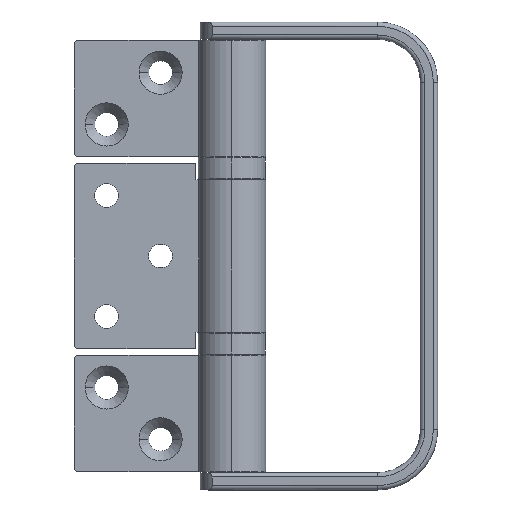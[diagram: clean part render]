
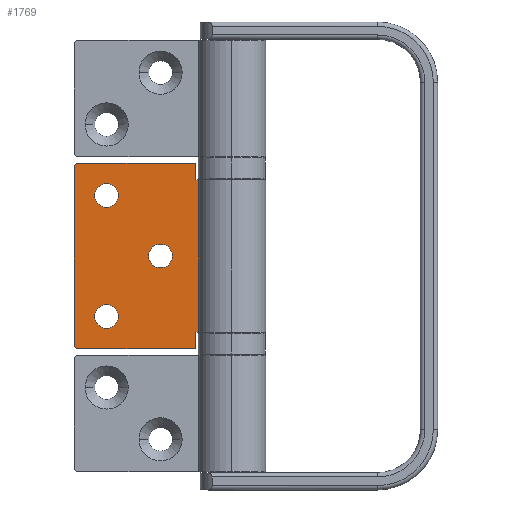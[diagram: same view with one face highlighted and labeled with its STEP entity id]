
A CAD part, top view. The second image highlights one B-rep face of the part: STEP entity #1769.
In plain terms, the highlighted planar face has unit normal (0, 0, 1) as drawn and (-1, 0, 0) by its records, which use the part's own axes.
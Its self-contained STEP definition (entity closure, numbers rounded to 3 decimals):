
#9 = DIRECTION ( 'NONE',  ( 0., 1., 0. ) ) ;
#27 = ORIENTED_EDGE ( 'NONE', *, *, #2105, .T. ) ;
#30 = EDGE_CURVE ( 'NONE', #787, #1439, #2310, .T. ) ;
#45 = CIRCLE ( 'NONE', #2946, 2.75 ) ;
#55 = AXIS2_PLACEMENT_3D ( 'NONE', #2033, #186, #1122 ) ;
#62 = LINE ( 'NONE', #1268, #659 ) ;
#66 = CARTESIAN_POINT ( 'NONE',  ( -1.5, 29., 35.5 ) ) ;
#80 = CARTESIAN_POINT ( 'NONE',  ( -1.5, 35.5, 43. ) ) ;
#92 = LINE ( 'NONE', #3700, #2205 ) ;
#113 = AXIS2_PLACEMENT_3D ( 'NONE', #2845, #1651, #429 ) ;
#171 = DIRECTION ( 'NONE',  ( 0., 1., 0. ) ) ;
#185 = FACE_BOUND ( 'NONE', #983, .T. ) ;
#186 = DIRECTION ( 'NONE',  ( 1., 0., 0. ) ) ;
#246 = ORIENTED_EDGE ( 'NONE', *, *, #3299, .F. ) ;
#253 = CARTESIAN_POINT ( 'NONE',  ( -1.5, 26.25, 35.5 ) ) ;
#264 = EDGE_LOOP ( 'NONE', ( #3300, #1544 ) ) ;
#306 = CARTESIAN_POINT ( 'NONE',  ( -1.5, 35.5, 0. ) ) ;
#388 = CARTESIAN_POINT ( 'NONE',  ( -1.5, 19.25, 21.5 ) ) ;
#405 = DIRECTION ( 'NONE',  ( 1., 0., 0. ) ) ;
#429 = DIRECTION ( 'NONE',  ( 0., 1., 0. ) ) ;
#440 = DIRECTION ( 'NONE',  ( 0., 1., 0. ) ) ;
#509 = FACE_BOUND ( 'NONE', #264, .T. ) ;
#545 = AXIS2_PLACEMENT_3D ( 'NONE', #2735, #2444, #9 ) ;
#629 = LINE ( 'NONE', #1467, #3268 ) ;
#656 = AXIS2_PLACEMENT_3D ( 'NONE', #840, #757, #2046 ) ;
#659 = VECTOR ( 'NONE', #2415, 1000. ) ;
#664 = CARTESIAN_POINT ( 'NONE',  ( -1.5, 7.705, 43. ) ) ;
#722 = ORIENTED_EDGE ( 'NONE', *, *, #1473, .T. ) ;
#735 = AXIS2_PLACEMENT_3D ( 'NONE', #1255, #3634, #3279 ) ;
#757 = DIRECTION ( 'NONE',  ( 1., 0., 0. ) ) ;
#787 = VERTEX_POINT ( 'NONE', #3498 ) ;
#838 = ORIENTED_EDGE ( 'NONE', *, *, #2560, .T. ) ;
#840 = CARTESIAN_POINT ( 'NONE',  ( -1.5, 36.5, 43. ) ) ;
#868 = CIRCLE ( 'NONE', #735, 2.75 ) ;
#907 = EDGE_CURVE ( 'NONE', #3238, #1077, #2257, .T. ) ;
#924 = VERTEX_POINT ( 'NONE', #944 ) ;
#935 = EDGE_LOOP ( 'NONE', ( #722, #838, #2634, #246, #2682, #1584, #1725, #2335, #2083, #2038 ) ) ;
#938 = VECTOR ( 'NONE', #3026, 1000. ) ;
#944 = CARTESIAN_POINT ( 'NONE',  ( -1.5, 7.705, 3.8 ) ) ;
#964 = DIRECTION ( 'NONE',  ( 0., 0., 1. ) ) ;
#983 = EDGE_LOOP ( 'NONE', ( #27, #3679 ) ) ;
#985 = DIRECTION ( 'NONE',  ( 0., -1., 0. ) ) ;
#1006 = VERTEX_POINT ( 'NONE', #1591 ) ;
#1019 = EDGE_CURVE ( 'NONE', #2387, #1428, #3057, .T. ) ;
#1042 = CARTESIAN_POINT ( 'NONE',  ( -1.5, 36.5, 39.2 ) ) ;
#1044 = VERTEX_POINT ( 'NONE', #388 ) ;
#1062 = CIRCLE ( 'NONE', #55, 2.75 ) ;
#1077 = VERTEX_POINT ( 'NONE', #1577 ) ;
#1078 = EDGE_CURVE ( 'NONE', #3620, #3116, #2648, .T. ) ;
#1088 = CARTESIAN_POINT ( 'NONE',  ( -1.5, 35.5, 1. ) ) ;
#1112 = EDGE_CURVE ( 'NONE', #2082, #924, #92, .T. ) ;
#1122 = DIRECTION ( 'NONE',  ( 0., 1., 0. ) ) ;
#1139 = ORIENTED_EDGE ( 'NONE', *, *, #2777, .T. ) ;
#1168 = DIRECTION ( 'NONE',  ( 0., 0., 1. ) ) ;
#1191 = CARTESIAN_POINT ( 'NONE',  ( -1.5, 13.75, 21.5 ) ) ;
#1255 = CARTESIAN_POINT ( 'NONE',  ( -1.5, 29., 7.5 ) ) ;
#1265 = CARTESIAN_POINT ( 'NONE',  ( -1.5, 31.75, 7.5 ) ) ;
#1266 = EDGE_CURVE ( 'NONE', #3809, #1044, #1062, .T. ) ;
#1268 = CARTESIAN_POINT ( 'NONE',  ( -1.5, 36.5, 43. ) ) ;
#1290 = CARTESIAN_POINT ( 'NONE',  ( -1.5, 8.4, 43. ) ) ;
#1364 = DIRECTION ( 'NONE',  ( -1., 0., 0. ) ) ;
#1425 = VECTOR ( 'NONE', #1902, 1000. ) ;
#1428 = VERTEX_POINT ( 'NONE', #2154 ) ;
#1439 = VERTEX_POINT ( 'NONE', #306 ) ;
#1467 = CARTESIAN_POINT ( 'NONE',  ( -1.5, 8.4, 43. ) ) ;
#1473 = EDGE_CURVE ( 'NONE', #1439, #2692, #3578, .T. ) ;
#1541 = CARTESIAN_POINT ( 'NONE',  ( -1.5, 16.5, 21.5 ) ) ;
#1544 = ORIENTED_EDGE ( 'NONE', *, *, #3373, .T. ) ;
#1577 = CARTESIAN_POINT ( 'NONE',  ( -1.5, 31.75, 35.5 ) ) ;
#1584 = ORIENTED_EDGE ( 'NONE', *, *, #1019, .T. ) ;
#1591 = CARTESIAN_POINT ( 'NONE',  ( -1.5, 7.705, 39.2 ) ) ;
#1617 = LINE ( 'NONE', #664, #1425 ) ;
#1626 = DIRECTION ( 'NONE',  ( 0., 1., 0. ) ) ;
#1651 = DIRECTION ( 'NONE',  ( -1., 0., 0. ) ) ;
#1725 = ORIENTED_EDGE ( 'NONE', *, *, #2643, .F. ) ;
#1729 = FACE_OUTER_BOUND ( 'NONE', #935, .T. ) ;
#1769 = ADVANCED_FACE ( 'NONE', ( #185, #509, #2650, #1729 ), #3558, .F. ) ;
#1819 = CARTESIAN_POINT ( 'NONE',  ( -1.5, 36.5, 0. ) ) ;
#1820 = VECTOR ( 'NONE', #171, 1000. ) ;
#1826 = VECTOR ( 'NONE', #964, 1000. ) ;
#1902 = DIRECTION ( 'NONE',  ( 0., 0., -1. ) ) ;
#1920 = CARTESIAN_POINT ( 'NONE',  ( -1.5, 26.25, 7.5 ) ) ;
#1934 = CARTESIAN_POINT ( 'NONE',  ( -1.5, 29., 7.5 ) ) ;
#2033 = CARTESIAN_POINT ( 'NONE',  ( -1.5, 16.5, 21.5 ) ) ;
#2038 = ORIENTED_EDGE ( 'NONE', *, *, #30, .T. ) ;
#2046 = DIRECTION ( 'NONE',  ( 0., 1., 0. ) ) ;
#2056 = CIRCLE ( 'NONE', #2626, 2.75 ) ;
#2082 = VERTEX_POINT ( 'NONE', #2145 ) ;
#2083 = ORIENTED_EDGE ( 'NONE', *, *, #2133, .T. ) ;
#2105 = EDGE_CURVE ( 'NONE', #1044, #3809, #2056, .T. ) ;
#2133 = EDGE_CURVE ( 'NONE', #3116, #787, #62, .T. ) ;
#2145 = CARTESIAN_POINT ( 'NONE',  ( -1.5, 8.4, 3.8 ) ) ;
#2154 = CARTESIAN_POINT ( 'NONE',  ( -1.5, 8.4, 43. ) ) ;
#2163 = DIRECTION ( 'NONE',  ( 1., 0., 0. ) ) ;
#2189 = VECTOR ( 'NONE', #3052, 1000. ) ;
#2205 = VECTOR ( 'NONE', #985, 1000. ) ;
#2257 = CIRCLE ( 'NONE', #545, 2.75 ) ;
#2286 = LINE ( 'NONE', #1042, #1820 ) ;
#2310 = CIRCLE ( 'NONE', #3836, 1. ) ;
#2321 = ORIENTED_EDGE ( 'NONE', *, *, #907, .T. ) ;
#2335 = ORIENTED_EDGE ( 'NONE', *, *, #1078, .T. ) ;
#2387 = VERTEX_POINT ( 'NONE', #2814 ) ;
#2415 = DIRECTION ( 'NONE',  ( 0., 0., -1. ) ) ;
#2444 = DIRECTION ( 'NONE',  ( 1., 0., 0. ) ) ;
#2560 = EDGE_CURVE ( 'NONE', #2692, #2082, #629, .T. ) ;
#2626 = AXIS2_PLACEMENT_3D ( 'NONE', #1541, #2163, #3376 ) ;
#2634 = ORIENTED_EDGE ( 'NONE', *, *, #1112, .T. ) ;
#2643 = EDGE_CURVE ( 'NONE', #3620, #1428, #3297, .T. ) ;
#2648 = CIRCLE ( 'NONE', #113, 1. ) ;
#2650 = FACE_BOUND ( 'NONE', #2894, .T. ) ;
#2665 = EDGE_CURVE ( 'NONE', #3010, #3711, #868, .T. ) ;
#2682 = ORIENTED_EDGE ( 'NONE', *, *, #3131, .T. ) ;
#2692 = VERTEX_POINT ( 'NONE', #3727 ) ;
#2735 = CARTESIAN_POINT ( 'NONE',  ( -1.5, 29., 35.5 ) ) ;
#2746 = CIRCLE ( 'NONE', #2884, 2.75 ) ;
#2763 = DIRECTION ( 'NONE',  ( 1., 0., 0. ) ) ;
#2777 = EDGE_CURVE ( 'NONE', #1077, #3238, #45, .T. ) ;
#2814 = CARTESIAN_POINT ( 'NONE',  ( -1.5, 8.4, 39.2 ) ) ;
#2845 = CARTESIAN_POINT ( 'NONE',  ( -1.5, 35.5, 42. ) ) ;
#2884 = AXIS2_PLACEMENT_3D ( 'NONE', #1934, #2763, #3064 ) ;
#2894 = EDGE_LOOP ( 'NONE', ( #1139, #2321 ) ) ;
#2946 = AXIS2_PLACEMENT_3D ( 'NONE', #66, #405, #1626 ) ;
#3010 = VERTEX_POINT ( 'NONE', #1265 ) ;
#3026 = DIRECTION ( 'NONE',  ( 0., -1., 0. ) ) ;
#3052 = DIRECTION ( 'NONE',  ( 0., -1., 0. ) ) ;
#3057 = LINE ( 'NONE', #1290, #1826 ) ;
#3064 = DIRECTION ( 'NONE',  ( 0., 1., 0. ) ) ;
#3116 = VERTEX_POINT ( 'NONE', #3527 ) ;
#3131 = EDGE_CURVE ( 'NONE', #1006, #2387, #2286, .T. ) ;
#3238 = VERTEX_POINT ( 'NONE', #253 ) ;
#3268 = VECTOR ( 'NONE', #1168, 1000. ) ;
#3279 = DIRECTION ( 'NONE',  ( 0., 1., 0. ) ) ;
#3297 = LINE ( 'NONE', #3657, #2189 ) ;
#3299 = EDGE_CURVE ( 'NONE', #1006, #924, #1617, .T. ) ;
#3300 = ORIENTED_EDGE ( 'NONE', *, *, #2665, .T. ) ;
#3373 = EDGE_CURVE ( 'NONE', #3711, #3010, #2746, .T. ) ;
#3376 = DIRECTION ( 'NONE',  ( 0., 1., 0. ) ) ;
#3498 = CARTESIAN_POINT ( 'NONE',  ( -1.5, 36.5, 1. ) ) ;
#3527 = CARTESIAN_POINT ( 'NONE',  ( -1.5, 36.5, 42. ) ) ;
#3558 = PLANE ( 'NONE',  #656 ) ;
#3578 = LINE ( 'NONE', #1819, #938 ) ;
#3620 = VERTEX_POINT ( 'NONE', #80 ) ;
#3634 = DIRECTION ( 'NONE',  ( 1., 0., 0. ) ) ;
#3657 = CARTESIAN_POINT ( 'NONE',  ( -1.5, 36.5, 43. ) ) ;
#3679 = ORIENTED_EDGE ( 'NONE', *, *, #1266, .T. ) ;
#3700 = CARTESIAN_POINT ( 'NONE',  ( -1.5, 36.5, 3.8 ) ) ;
#3711 = VERTEX_POINT ( 'NONE', #1920 ) ;
#3727 = CARTESIAN_POINT ( 'NONE',  ( -1.5, 8.4, 0. ) ) ;
#3809 = VERTEX_POINT ( 'NONE', #1191 ) ;
#3836 = AXIS2_PLACEMENT_3D ( 'NONE', #1088, #1364, #440 ) ;
